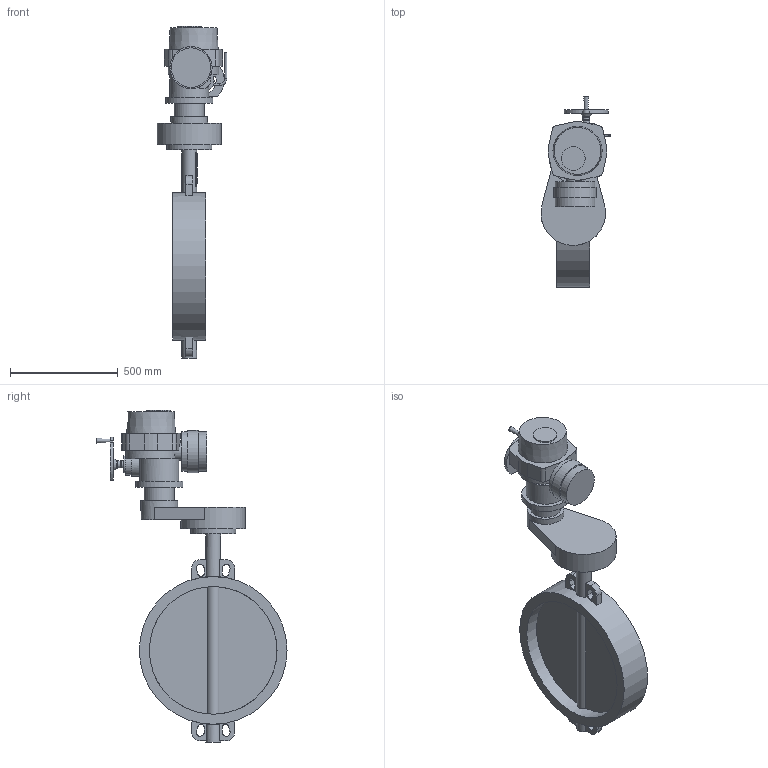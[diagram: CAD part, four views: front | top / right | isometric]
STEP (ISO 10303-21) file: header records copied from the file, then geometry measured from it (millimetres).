
FILE_DESCRIPTION(('STEP AP203'), '1');
FILE_NAME('Çàòâîð 017W.Z(÷óãóí) DN600+ÝÏ QT.A500', '', ('UNSPECIFIED'), ('UNSPECIFIED'), 'ASCON STEP Converter 1.6', 'ASCON Math Kernel', '');
FILE_SCHEMA(('CONFIG_CONTROL_DESIGN'));
Length unit declared in the file: millimetre
Bounding box: 324.45 x 881.5 x 1540 mm (x, y, z)
Volume: 54783436.7 mm3; surface area: 2472239.1 mm2
Topology: 1 solids, 1 shells, 881 faces, 2469 edges, 1638 vertices
Faces by surface type: cylinder 630, plane 247, cone 3, torus 1
Full cylindrical faces by diameter (mm): 10 x2, 14 x12, 16 x1, 22 x4, 32 x2, 35 x1, 50.7 x1, 60 x1, 68 x2, 80 x2, 100 x1, 110 x1, 130 x1, 140 x1, 170 x1, 180 x1, 183 x2, 196 x1, 210 x1, 220 x1, 300 x1, 592.5 x2, 685 x1
Entity records: 37258 total; most frequent: CARTESIAN_POINT 6322, DIRECTION 5486, ORIENTED_EDGE 4844, EDGE_CURVE 2422, AXIS2_PLACEMENT_3D 2206, VERTEX_POINT 1638, CIRCLE 1324, LINE 1074
